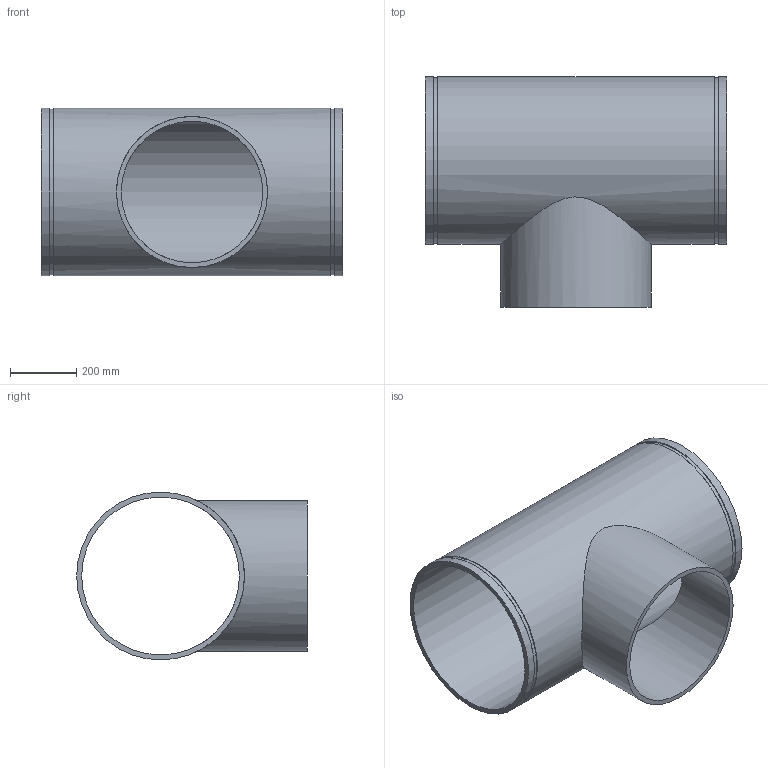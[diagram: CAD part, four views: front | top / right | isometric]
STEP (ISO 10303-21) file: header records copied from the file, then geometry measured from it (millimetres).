
FILE_DESCRIPTION(/* description */ ('VIC REDUCING TEE No 29T FFT (OGSxMPT)','CAx-IF Rec.Pracs.---Representation and Presentation of Product Manufacturing Information (PMI)---4.0---2014-10-13'),/* implementation_level */ '2;1');
FILE_NAME(/* name */ 'C:\Users\kkamble\AppData\Roaming\Autodesk\ApplicationPlugins\Back Up\Victaulic_IPS_Tee Reducing_No 29T FFT (OGSxMPT)\Victaulic_IPS_Tee Reducing_No 29T FFT (OGSxMPT)_20.0x18.0 (500x450).stp',/* time_stamp */ '2020-09-16T22:40:41+05:00',/* author */ ('CORINNE GRAY'),/* organization */ ('Victaulic'),/* preprocessor_version */ 'ST-DEVELOPER v17.2',/* originating_system */ 'Autodesk Inventor 2019',/* authorisation */ '');
FILE_SCHEMA (('AP242_MANAGED_MODEL_BASED_3D_ENGINEERING_MIM_LF { 1 0 10303 442 1 1 4 }'));
Length unit declared in the file: inch
Products named in the file (1): 29 FFT-20.0x18.0
Bounding box: 914.4 x 698.5 x 508 mm (x, y, z)
Volume: 23708477.4 mm3; surface area: 3282336 mm2
Topology: 1 solids, 1 shells, 15 faces, 32 edges, 24 vertices
Faces by surface type: cylinder 8, plane 7
Full cylindrical faces by diameter (mm): 428.6 x1, 457.2 x1, 477.876 x1, 502.437 x2, 508 x3
Entity records: 821 total; most frequent: CARTESIAN_POINT 333, DIRECTION 106, ORIENTED_EDGE 64, AXIS2_PLACEMENT_3D 49, EDGE_CURVE 32, EDGE_LOOP 24, VERTEX_POINT 24, CIRCLE 20
